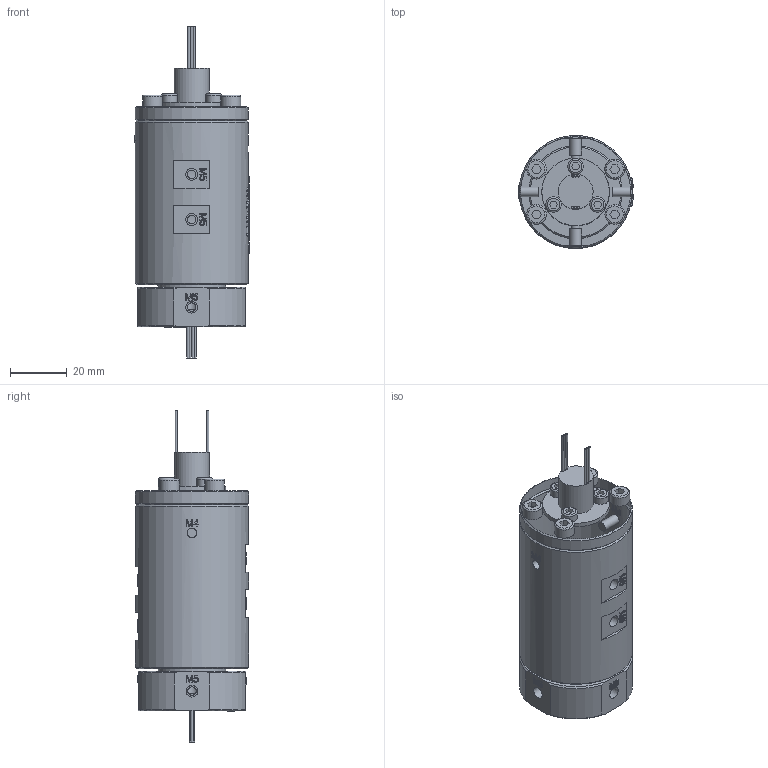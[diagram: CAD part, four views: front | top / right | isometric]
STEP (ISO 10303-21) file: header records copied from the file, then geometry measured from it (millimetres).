
FILE_DESCRIPTION(/* description */ (''),/* implementation_level */ '2;1');
FILE_NAME(/* name */ 'HQ04005-06M.stp',/* time_stamp */ '2025-09-01T15:42:10+08:00',/* author */ (''),/* organization */ (''),/* preprocessor_version */ 'ST-DEVELOPER v16.7',/* originating_system */ 'SIEMENS PLM Software NX 12.0',/* authorisation */ '');
FILE_SCHEMA (('AUTOMOTIVE_DESIGN { 1 0 10303 214 3 1 1 1 }'));
Length unit declared in the file: millimetre
Products named in the file (1): AdmiB44865CDwcv0
Bounding box: 40.68 x 40 x 117.5 mm (x, y, z)
Volume: 97399.9 mm3; surface area: 18432.2 mm2
Topology: 1 solids, 4 shells, 1180 faces, 3182 edges, 2119 vertices
Faces by surface type: plane 566, extrusion 453, cylinder 87, bspline 50, cone 17, torus 7
Full cylindrical faces by diameter (mm): 0.8 x12, 3 x11, 3.4 x9, 4 x4, 4.1 x4, 4.2 x12, 5.5 x3, 6 x1, 7 x4, 12.4 x1, 23.9 x1, 24 x1, 32 x1, 40 x2
Entity records: 43955 total; most frequent: CARTESIAN_POINT 18684, ORIENTED_EDGE 6094, DIRECTION 3191, EDGE_CURVE 3047, B_SPLINE_CURVE_WITH_KNOTS 2448, VERTEX_POINT 2072, EDGE_LOOP 1387, ADVANCED_FACE 1180
